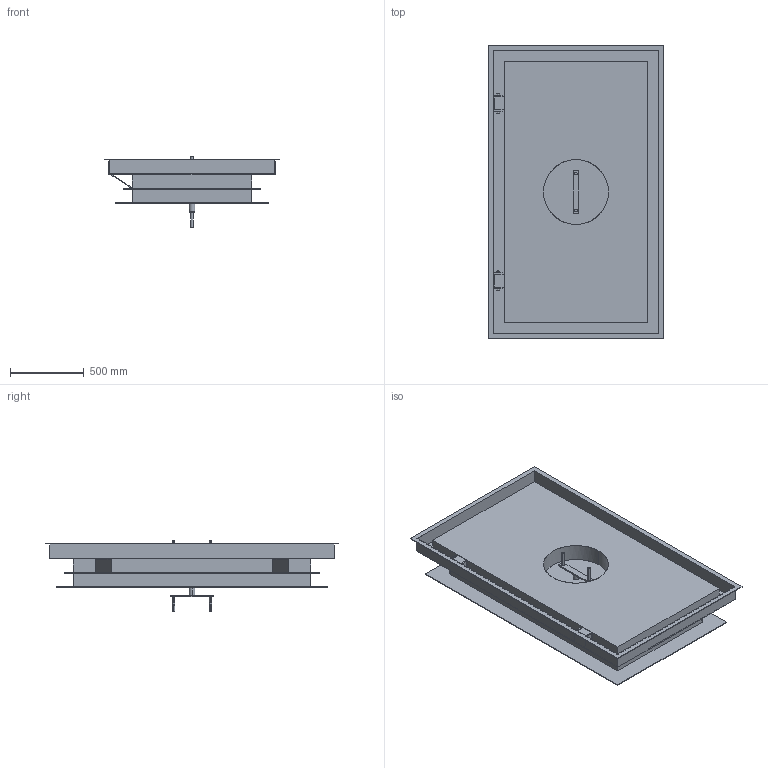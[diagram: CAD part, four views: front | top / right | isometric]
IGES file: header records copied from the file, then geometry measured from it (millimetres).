
Start section:  PTC IGES file: 52033712.igs
Global section: file name: 52033712.igs; native system: Creo Parametric by PTC Inc.; preprocessor: 2022162; author: ka; organization: Unknown; date: 20230224.113946; units: millimetre
Bounding box: 1190 x 1990 x 480 mm (x, y, z)
Surface area: 10719830.1 mm2 (no closed solid volume)
Topology: 0 solids, 0 shells, 134 faces, 652 edges, 652 vertices
Faces by surface type: bspline 112, revolution 22
